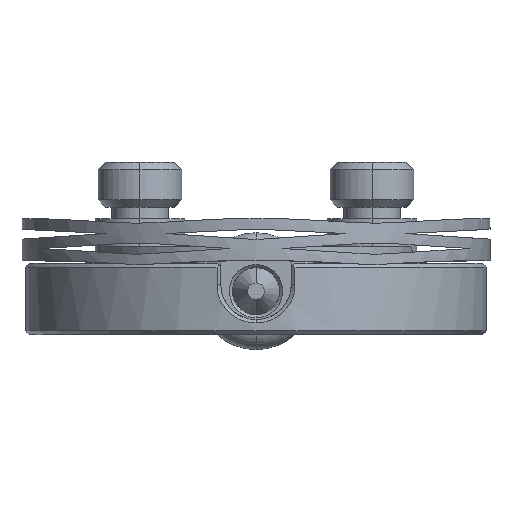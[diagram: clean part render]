
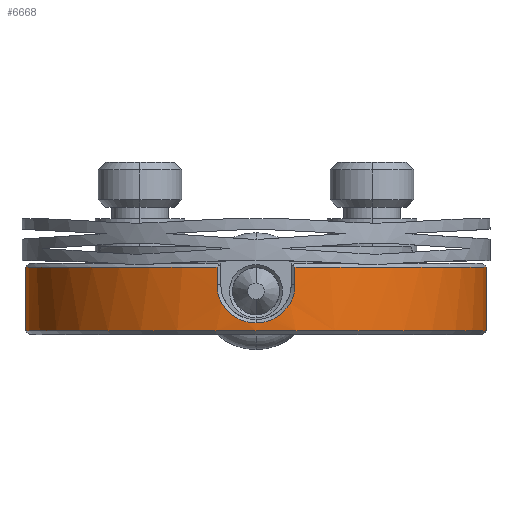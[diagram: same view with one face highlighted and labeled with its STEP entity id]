
A CAD part, front view. The second image highlights one B-rep face of the part: STEP entity #6668.
In plain terms, the highlighted cylindrical face has radius 7.811 mm (diameter 15.621 mm), a partial arc.
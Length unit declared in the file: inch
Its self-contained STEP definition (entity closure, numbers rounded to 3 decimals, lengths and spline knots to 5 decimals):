
#25 = VECTOR ( 'NONE', #8747, 39.37008 ) ;
#186 = CARTESIAN_POINT ( 'NONE',  ( -0.3075, 0., 0.005 ) ) ;
#220 = CARTESIAN_POINT ( 'NONE',  ( 0.05239, -0.303, 0.05326 ) ) ;
#312 = CARTESIAN_POINT ( 'NONE',  ( 0.05208, -0.30306, 0.067 ) ) ;
#338 = CARTESIAN_POINT ( 'NONE',  ( -0.02622, -0.30656, 0.02042 ) ) ;
#404 = DIRECTION ( 'NONE',  ( -1., 0., 0. ) ) ;
#444 = EDGE_CURVE ( 'NONE', #4152, #4665, #6606, .T. ) ;
#529 = VERTEX_POINT ( 'NONE', #6796 ) ;
#784 = LINE ( 'NONE', #4524, #25 ) ;
#860 = CARTESIAN_POINT ( 'NONE',  ( 0.0262, -0.30657, 0.02042 ) ) ;
#879 = CARTESIAN_POINT ( 'NONE',  ( 0., 0., -0.0987 ) ) ;
#1125 = DIRECTION ( 'NONE',  ( 0., 0., -1. ) ) ;
#1213 = EDGE_CURVE ( 'NONE', #3167, #8540, #8470, .T. ) ;
#1214 = CARTESIAN_POINT ( 'NONE',  ( 0.05208, -0.30306, 0.09 ) ) ;
#1371 = ORIENTED_EDGE ( 'NONE', *, *, #3048, .T. ) ;
#1428 = VECTOR ( 'NONE', #7376, 39.37008 ) ;
#1622 = AXIS2_PLACEMENT_3D ( 'NONE', #6603, #8756, #5213 ) ;
#1776 = CARTESIAN_POINT ( 'NONE',  ( 0., -0.3075, 0.01571 ) ) ;
#1963 = ORIENTED_EDGE ( 'NONE', *, *, #6094, .T. ) ;
#2534 = CIRCLE ( 'NONE', #4281, 0.3075 ) ;
#2550 = DIRECTION ( 'NONE',  ( -1., 0., 0. ) ) ;
#3048 = EDGE_CURVE ( 'NONE', #4152, #3167, #4717, .T. ) ;
#3123 = EDGE_CURVE ( 'NONE', #529, #5680, #4648, .T. ) ;
#3160 = CARTESIAN_POINT ( 'NONE',  ( -0.05208, -0.30306, 0.09 ) ) ;
#3167 = VERTEX_POINT ( 'NONE', #1214 ) ;
#3503 = DIRECTION ( 'NONE',  ( 0., 0., -1. ) ) ;
#3809 = EDGE_LOOP ( 'NONE', ( #7520, #1371, #6910, #1963, #5833, #5452, #6961, #5981, #8097 ) ) ;
#3839 = EDGE_CURVE ( 'NONE', #5680, #8742, #784, .T. ) ;
#3955 = CARTESIAN_POINT ( 'NONE',  ( 0., 0., 0.005 ) ) ;
#4152 = VERTEX_POINT ( 'NONE', #8512 ) ;
#4281 = AXIS2_PLACEMENT_3D ( 'NONE', #8588, #4303, #6403 ) ;
#4303 = DIRECTION ( 'NONE',  ( 0., 0., -1. ) ) ;
#4331 = AXIS2_PLACEMENT_3D ( 'NONE', #3955, #5381, #404 ) ;
#4358 = CARTESIAN_POINT ( 'NONE',  ( 0.05208, -0.30306, 0.067 ) ) ;
#4524 = CARTESIAN_POINT ( 'NONE',  ( -0.05208, -0.30306, -0.0987 ) ) ;
#4648 = B_SPLINE_CURVE_WITH_KNOTS ( 'NONE', 3,
 ( #1776, #5250, #338, #5281, #5905, #6670 ),
 .UNSPECIFIED., .F., .F.,
 ( 4, 2, 4 ),
 ( 0., 0.5, 1. ),
 .UNSPECIFIED. ) ;
#4665 = VERTEX_POINT ( 'NONE', #7005 ) ;
#4717 = CIRCLE ( 'NONE', #1622, 0.3075 ) ;
#4766 = VECTOR ( 'NONE', #8733, 39.37008 ) ;
#4795 = EDGE_CURVE ( 'NONE', #7962, #8439, #6912, .T. ) ;
#5213 = DIRECTION ( 'NONE',  ( 1., 0., 0. ) ) ;
#5230 = EDGE_CURVE ( 'NONE', #8742, #7962, #2534, .T. ) ;
#5250 = CARTESIAN_POINT ( 'NONE',  ( -0.01397, -0.3075, 0.0154 ) ) ;
#5281 = CARTESIAN_POINT ( 'NONE',  ( -0.04733, -0.30402, 0.04124 ) ) ;
#5307 = CARTESIAN_POINT ( 'NONE',  ( -0.3075, 0., -0.0987 ) ) ;
#5381 = DIRECTION ( 'NONE',  ( 0., 0., 1. ) ) ;
#5452 = ORIENTED_EDGE ( 'NONE', *, *, #3839, .T. ) ;
#5680 = VERTEX_POINT ( 'NONE', #6878 ) ;
#5832 = VECTOR ( 'NONE', #3503, 39.37008 ) ;
#5833 = ORIENTED_EDGE ( 'NONE', *, *, #3123, .T. ) ;
#5905 = CARTESIAN_POINT ( 'NONE',  ( -0.05239, -0.303, 0.0533 ) ) ;
#5981 = ORIENTED_EDGE ( 'NONE', *, *, #4795, .T. ) ;
#6094 = EDGE_CURVE ( 'NONE', #8540, #529, #8794, .T. ) ;
#6403 = DIRECTION ( 'NONE',  ( 1., 0., 0. ) ) ;
#6424 = CIRCLE ( 'NONE', #4331, 0.3075 ) ;
#6603 = CARTESIAN_POINT ( 'NONE',  ( 0., 0., 0.09 ) ) ;
#6606 = LINE ( 'NONE', #8033, #4766 ) ;
#6668 = ADVANCED_FACE ( 'NONE', ( #7319 ), #8417, .T. ) ;
#6670 = CARTESIAN_POINT ( 'NONE',  ( -0.05208, -0.30306, 0.067 ) ) ;
#6796 = CARTESIAN_POINT ( 'NONE',  ( 0., -0.3075, 0.01571 ) ) ;
#6836 = CARTESIAN_POINT ( 'NONE',  ( -0.3075, 0., 0.09 ) ) ;
#6878 = CARTESIAN_POINT ( 'NONE',  ( -0.05208, -0.30306, 0.067 ) ) ;
#6910 = ORIENTED_EDGE ( 'NONE', *, *, #1213, .T. ) ;
#6912 = LINE ( 'NONE', #5307, #1428 ) ;
#6961 = ORIENTED_EDGE ( 'NONE', *, *, #5230, .T. ) ;
#7005 = CARTESIAN_POINT ( 'NONE',  ( 0.3075, 0., 0.005 ) ) ;
#7051 = EDGE_CURVE ( 'NONE', #8439, #4665, #6424, .T. ) ;
#7174 = CARTESIAN_POINT ( 'NONE',  ( 0.01394, -0.3075, 0.0154 ) ) ;
#7319 = FACE_OUTER_BOUND ( 'NONE', #3809, .T. ) ;
#7376 = DIRECTION ( 'NONE',  ( 0., 0., -1. ) ) ;
#7520 = ORIENTED_EDGE ( 'NONE', *, *, #444, .F. ) ;
#7729 = AXIS2_PLACEMENT_3D ( 'NONE', #879, #1125, #2550 ) ;
#7767 = CARTESIAN_POINT ( 'NONE',  ( 0.05208, -0.30306, -0.0987 ) ) ;
#7877 = CARTESIAN_POINT ( 'NONE',  ( 0., -0.3075, 0.01571 ) ) ;
#7962 = VERTEX_POINT ( 'NONE', #6836 ) ;
#8033 = CARTESIAN_POINT ( 'NONE',  ( 0.3075, 0., -0.0987 ) ) ;
#8097 = ORIENTED_EDGE ( 'NONE', *, *, #7051, .T. ) ;
#8417 = CYLINDRICAL_SURFACE ( 'NONE', #7729, 0.3075 ) ;
#8439 = VERTEX_POINT ( 'NONE', #186 ) ;
#8470 = LINE ( 'NONE', #7767, #5832 ) ;
#8512 = CARTESIAN_POINT ( 'NONE',  ( 0.3075, 0., 0.09 ) ) ;
#8540 = VERTEX_POINT ( 'NONE', #312 ) ;
#8588 = CARTESIAN_POINT ( 'NONE',  ( 0., 0., 0.09 ) ) ;
#8614 = CARTESIAN_POINT ( 'NONE',  ( 0.04726, -0.30403, 0.04114 ) ) ;
#8733 = DIRECTION ( 'NONE',  ( 0., 0., -1. ) ) ;
#8742 = VERTEX_POINT ( 'NONE', #3160 ) ;
#8747 = DIRECTION ( 'NONE',  ( 0., 0., 1. ) ) ;
#8756 = DIRECTION ( 'NONE',  ( 0., 0., -1. ) ) ;
#8794 = B_SPLINE_CURVE_WITH_KNOTS ( 'NONE', 3,
 ( #4358, #220, #8614, #860, #7174, #7877 ),
 .UNSPECIFIED., .F., .F.,
 ( 4, 2, 4 ),
 ( 0., 0.5, 1. ),
 .UNSPECIFIED. ) ;
